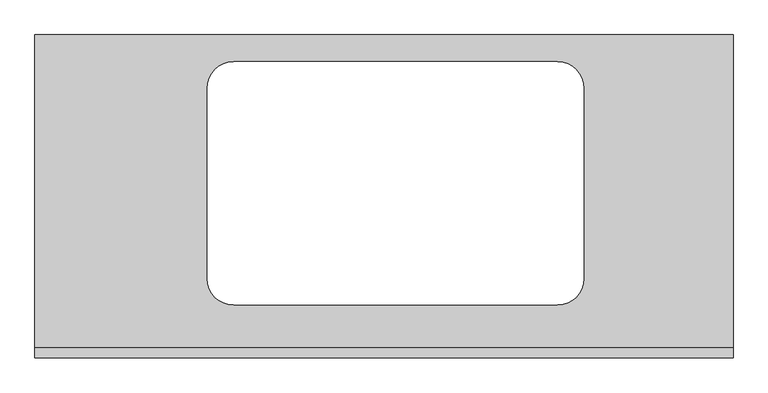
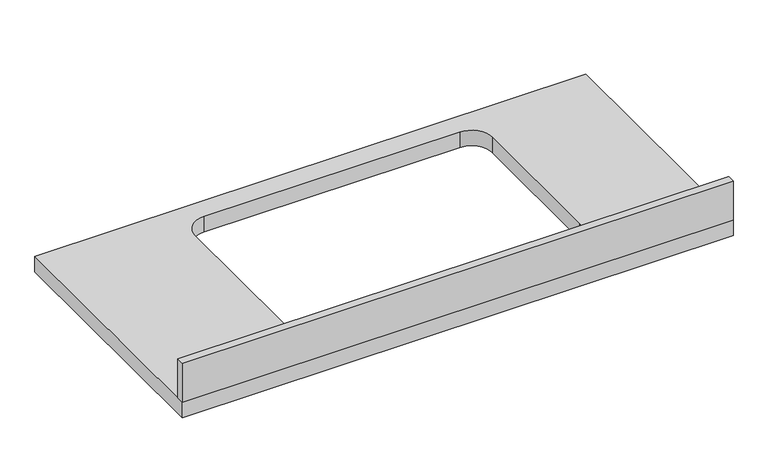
"""IFC4 building model written with IfcOpenShell, lengths in millimetres: furniture geometry, Столешница туалетного шкафчика с квадратным отверстием под раковину : Глубина 600мм."""

import ifcopenshell
import ifcopenshell.guid

model = None  # the IFC model being written
_history = None  # IfcOwnerHistory: only IFC2X3 demands one
_inside = {}  # id of a spatial element -> (the spatial element, [elements in it])
_under = {}  # id of a project, library or spatial element -> (it, [spatial elements below it])
_declared = {}  # id of a project -> (the project, [libraries it declares])
_typed = {}  # id of a type object -> (the type object, [elements of that type])
_made_of = {}  # id of a material, layer set ... -> (it, [elements and type objects made of it])


def new_model(schema):
    """Start an empty IFC model of exactly this schema.

    Asked for "IFC4X3", IfcOpenShell would pick the latest addendum, in which some entities
    have other attributes; the version numbers below select the first issue.
    IFC2X3 requires an IfcOwnerHistory on every rooted entity: one is made here for all.
    """
    global model, _history
    if schema == "IFC4X3":
        model = ifcopenshell.file(schema_version=(4, 3, 0, 0))
    else:
        model = ifcopenshell.file(schema=schema)
    _inside.clear()
    _under.clear()
    _declared.clear()
    _typed.clear()
    _made_of.clear()
    _history = None
    if model.schema == "IFC2X3":
        org = make("IfcOrganization", Name="unknown")
        user = make(
            "IfcPersonAndOrganization",
            ThePerson=make("IfcPerson", FamilyName="unknown"),
            TheOrganization=org,
        )
        app = make(
            "IfcApplication",
            ApplicationDeveloper=org,
            Version="unknown",
            ApplicationFullName="unknown",
            ApplicationIdentifier="unknown",
        )
        _history = make(
            "IfcOwnerHistory",
            OwningUser=user,
            OwningApplication=app,
            ChangeAction="ADDED",
            CreationDate=0,
        )
    return model


def make(cls, **values):
    """One entity of the class cls with the attributes given. An attribute that is None is left unset."""
    return model.create_entity(
        cls, **{name: value for name, value in values.items() if value is not None}
    )


def rooted(cls, **values):
    """An entity with a GlobalId (a new one), such as an element, a storey or a relation."""
    return make(cls, GlobalId=ifcopenshell.guid.new(), OwnerHistory=_history, **values)


def si_unit(unit_type, name, prefix=None):
    """IfcSIUnit, for example si_unit("LENGTHUNIT", "METRE", prefix="MILLI")."""
    return make("IfcSIUnit", UnitType=unit_type, Prefix=prefix, Name=name)


def assignment(units):
    """IfcUnitAssignment: the units of a project."""
    return None if units is None else make("IfcUnitAssignment", Units=units)


def point(xyz):
    """IfcCartesianPoint."""
    return None if xyz is None else make("IfcCartesianPoint", Coordinates=xyz)


def direction(xyz):
    """IfcDirection."""
    return None if xyz is None else make("IfcDirection", DirectionRatios=xyz)


def frame(location, z_axis=None, x_axis=None):
    """IfcAxis2Placement3D, a coordinate frame: its origin and axes. An axis left out is left unset."""
    return make(
        "IfcAxis2Placement3D",
        Location=point(location),
        Axis=direction(z_axis),
        RefDirection=direction(x_axis),
    )


def frame_2d(location, x_axis=None):
    """IfcAxis2Placement2D, a coordinate frame in the plane: its origin and x axis."""
    return make(
        "IfcAxis2Placement2D", Location=point(location), RefDirection=direction(x_axis)
    )


def origin():
    """The frame at (0, 0, 0) with its axes left unset."""
    return frame((0.0, 0.0, 0.0))


def place(relative_to, where):
    """IfcLocalPlacement: puts the frame where relative to a parent placement (None: the world)."""
    return make(
        "IfcLocalPlacement", PlacementRelTo=relative_to, RelativePlacement=where
    )


def context(
    kind, dimensions, precision=None, world=None, true_north=None, identifier=None
):
    """IfcGeometricRepresentationContext, for example the 3D "Model" context."""
    return make(
        "IfcGeometricRepresentationContext",
        ContextIdentifier=identifier,
        ContextType=kind,
        CoordinateSpaceDimension=dimensions,
        Precision=precision,
        WorldCoordinateSystem=world,
        TrueNorth=true_north,
    )


def project(units=None, contexts=None):
    """IfcProject with its units and contexts."""
    return rooted(
        "IfcProject",
        Name="project",
        RepresentationContexts=contexts,
        UnitsInContext=assignment(units),
    )


def spatial(cls, under=None, at=None, **own):
    """A site, building, storey or space (cls), placed at a placement, below another one or the project."""
    s = rooted(cls, ObjectPlacement=at, **own)
    if under is not None:
        _under.setdefault(under.id(), (under, []))[1].append(s)
    return s


def polyline(points):
    """IfcPolyline through the points."""
    return make("IfcPolyline", Points=[point(p) for p in points])


def circle_curve(where, radius):
    """IfcCircle in the frame where."""
    return make("IfcCircle", Position=where, Radius=radius)


def trimmed(basis, trim1, trim2, sense, master):
    """IfcTrimmedCurve: the piece of a basis curve between two trims."""
    return make(
        "IfcTrimmedCurve",
        BasisCurve=basis,
        Trim1=trim1,
        Trim2=trim2,
        SenseAgreement=sense,
        MasterRepresentation=master,
    )


def segment(curve, same_sense, transition):
    """IfcCompositeCurveSegment."""
    return make(
        "IfcCompositeCurveSegment",
        Transition=transition,
        SameSense=same_sense,
        ParentCurve=curve,
    )


def composite_curve(segments, self_intersect=None):
    """IfcCompositeCurve: segments joined end to end."""
    return make("IfcCompositeCurve", Segments=segments, SelfIntersect=self_intersect)


def outline(outer, holes=None, kind="AREA"):
    """IfcArbitraryClosedProfileDef: a profile drawn as a closed curve; with holes, ...WithVoids."""
    if holes is None:
        return make("IfcArbitraryClosedProfileDef", ProfileType=kind, OuterCurve=outer)
    return make(
        "IfcArbitraryProfileDefWithVoids",
        ProfileType=kind,
        OuterCurve=outer,
        InnerCurves=holes,
    )


def extrude(swept, where, along, depth):
    """IfcExtrudedAreaSolid: the profile swept, set in the frame where, extruded along a direction by depth."""
    return make(
        "IfcExtrudedAreaSolid",
        SweptArea=swept,
        Position=where,
        ExtrudedDirection=direction(along),
        Depth=depth,
    )


def shape(context_of_items, identifier, shape_type, items):
    """IfcShapeRepresentation: the items that make up one representation, for example the "Body"."""
    return make(
        "IfcShapeRepresentation",
        ContextOfItems=context_of_items,
        RepresentationIdentifier=identifier,
        RepresentationType=shape_type,
        Items=items,
    )


def source(mapping_origin, context_of_items, identifier, shape_type, items):
    """IfcRepresentationMap: a shape defined once, which mapped items show again and again."""
    return make(
        "IfcRepresentationMap",
        MappingOrigin=mapping_origin,
        MappedRepresentation=shape(context_of_items, identifier, shape_type, items),
    )


def transform(
    local_origin,
    x_axis=None,
    y_axis=None,
    z_axis=None,
    scale=None,
    scale2=None,
    scale3=None,
    uniform=True,
):
    """IfcCartesianTransformationOperator3D, or its non-uniform kind. x_axis, y_axis, z_axis: its Axis1, 2, 3."""
    if uniform:
        return make(
            "IfcCartesianTransformationOperator3D",
            Axis1=direction(x_axis),
            Axis2=direction(y_axis),
            LocalOrigin=point(local_origin),
            Scale=scale,
            Axis3=direction(z_axis),
        )
    return make(
        "IfcCartesianTransformationOperator3DnonUniform",
        Axis1=direction(x_axis),
        Axis2=direction(y_axis),
        LocalOrigin=point(local_origin),
        Scale=scale,
        Axis3=direction(z_axis),
        Scale2=scale2,
        Scale3=scale3,
    )


def mapped(mapping_source, mapping_target):
    """IfcMappedItem: shows the shape of a source again, moved by a transform."""
    return make(
        "IfcMappedItem", MappingSource=mapping_source, MappingTarget=mapping_target
    )


def made_of(thing, what):
    """Note that an element or type object is made of a material, layer set ...; save() writes the relation."""
    if what is not None:
        _made_of.setdefault(what.id(), (what, []))[1].append(thing)
    return thing


def element(
    cls,
    number,
    at=None,
    inside=None,
    cuts=None,
    type_object=None,
    material=None,
    context=None,
    identifier="Body",
    shape_type=None,
    held_by="IfcProductDefinitionShape",
    body=None,
    shapes=None,
    **own,
):
    """One element of the class cls, such as IfcWall. Its Tag is "e" and its number.

    at: its placement. inside: the storey or other place that contains it. cuts: it is an
    opening in that element (IfcRelVoidsElement). A single representation is given by context,
    identifier, shape_type and body (its items); several are given by shapes. held_by: the class
    of the entity that holds the representations. save() writes the other relations.
    """
    e = rooted(cls, Tag="e%d" % number, ObjectPlacement=at, **own)
    if body is not None:
        shapes = [shape(context, identifier, shape_type, body)]
    if shapes is not None:
        e.Representation = make(held_by, Representations=shapes)
    if inside is not None:
        _inside.setdefault(inside.id(), (inside, []))[1].append(e)
    if cuts is not None:
        rooted(
            "IfcRelVoidsElement", RelatingBuildingElement=cuts, RelatedOpeningElement=e
        )
    if type_object is not None:
        _typed.setdefault(type_object.id(), (type_object, []))[1].append(e)
    return made_of(e, material)


def aggregate(whole, parts):
    """IfcRelAggregates: a whole, such as a stair, and the parts it consists of."""
    return rooted("IfcRelAggregates", RelatingObject=whole, RelatedObjects=parts)


def save(model, path):
    """Write the relations noted so far, then the file.

    IfcRelAggregates (storeys below a building ...), IfcRelContainedInSpatialStructure (elements
    in a storey), IfcRelDefinesByType, IfcRelAssociatesMaterial and IfcRelDeclares: one each for
    every whole, place, type object, material and project.
    """
    for whole, parts in _under.values():
        aggregate(whole, parts)
    for where, things in _inside.values():
        rooted(
            "IfcRelContainedInSpatialStructure",
            RelatedElements=things,
            RelatingStructure=where,
        )
    for kind, things in _typed.values():
        rooted("IfcRelDefinesByType", RelatedObjects=things, RelatingType=kind)
    for what, things in _made_of.values():
        rooted("IfcRelAssociatesMaterial", RelatedObjects=things, RelatingMaterial=what)
    for by, libraries in _declared.values():
        rooted("IfcRelDeclares", RelatingContext=by, RelatedDefinitions=libraries)
    model.write(path)


def furniture_975124bd(model_context):
    return source(origin(), model_context, "Body", "SweptSolid", [
        extrude(outline(polyline([(-1268.7247951, 0.0), (-1268.7247951, 19.05), (81.2752049, 19.05), (81.2752049, 0.0), (-1268.7247951, 0.0)])), frame((0.0, 0.0, 900.0), z_axis=(0.0, 0.0, 1.0), x_axis=(1.0, 0.0, 0.0)), (0.0, 0.0, 1.0), 101.6),
        extrude(outline(polyline([(81.2752049, 0.0), (-1268.7247951, 0.0), (-1268.7247951, 625.0), (81.2752049, 625.0), (81.2752049, 0.0)]), holes=[composite_curve([segment(polyline([(-884.6247951, 102.3), (-258.3111309, 102.3)]), True, "CONTINUOUS"), segment(trimmed(circle_curve(frame_2d((-258.3111309, 153.1)), 50.8), [point((-258.3111309, 102.3))], [point((-207.5111309, 153.1))], True, "CARTESIAN"), True, "CONTINUOUS"), segment(polyline([(-207.5111309, 153.1), (-207.5111309, 521.9)]), True, "CONTINUOUS"), segment(trimmed(circle_curve(frame_2d((-258.3111309, 521.9)), 50.8), [point((-207.5111309, 521.9))], [point((-258.3111309, 572.7))], True, "CARTESIAN"), True, "CONTINUOUS"), segment(polyline([(-258.3111309, 572.7), (-884.6247951, 572.7)]), True, "CONTINUOUS"), segment(trimmed(circle_curve(frame_2d((-884.6247951, 521.9)), 50.8), [point((-884.6247951, 572.7))], [point((-935.4247951, 521.9))], True, "CARTESIAN"), True, "CONTINUOUS"), segment(polyline([(-935.4247951, 521.9), (-935.4247951, 153.1)]), True, "CONTINUOUS"), segment(trimmed(circle_curve(frame_2d((-884.6247951, 153.1)), 50.8), [point((-935.4247951, 153.1))], [point((-884.6247951, 102.3))], True, "CARTESIAN"), True, "CONTINUOUS")], self_intersect=False)]), frame((0.0, 0.0, 860.0), z_axis=(0.0, 0.0, 1.0), x_axis=(1.0, 0.0, 0.0)), (0.0, 0.0, 1.0), 40.0),
    ])


if __name__ == "__main__":
    model = new_model("IFC4")
    model_context = context("Model", 3, world=origin())
    ifc_project = project(units=[si_unit("LENGTHUNIT", "METRE", prefix="MILLI")], contexts=[model_context])
    site = spatial("IfcSite", under=ifc_project)
    building = spatial("IfcBuilding", under=site)
    placement = place(None, origin())
    furniture_shape = furniture_975124bd(model_context)
    element("IfcFurniture", 1, ObjectType="Столешница туалетного шкафчика с квадратным отверстием под раковину : Глубина 600мм", at=placement, inside=building, context=model_context, shape_type="MappedRepresentation", body=[
        mapped(furniture_shape, transform((0.0, 0.0, 0.0), x_axis=(1.0, 0.0, 0.0), y_axis=(0.0, 1.0, 0.0), z_axis=(0.0, 0.0, 1.0))),
    ])
    save(model, "model.ifc")
